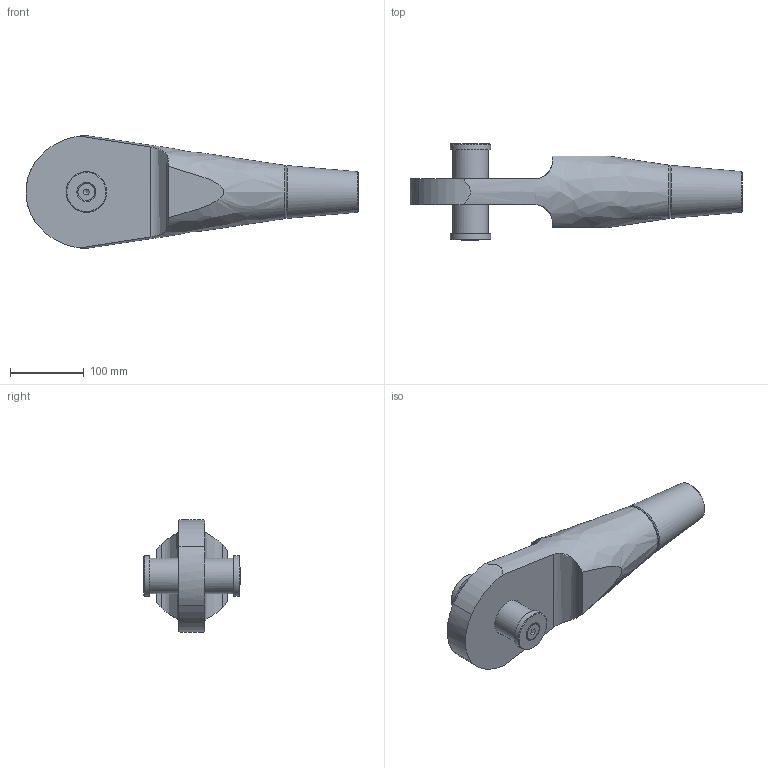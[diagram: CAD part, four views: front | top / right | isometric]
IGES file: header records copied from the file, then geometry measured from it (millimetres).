
Global section: file name: 520-048-OES; native system: Autodesk Inventor 2016; preprocessor: unknown; author: Administrator; date: 20200626.103452; units: centimetre
Bounding box: 449.87 x 130.44 x 152.7 mm (x, y, z)
Volume: 2364603.7 mm3; surface area: 179936.1 mm2
Topology: 2 solids, 4 shells, 49 faces, 119 edges, 81 vertices
Faces by surface type: bspline 49
